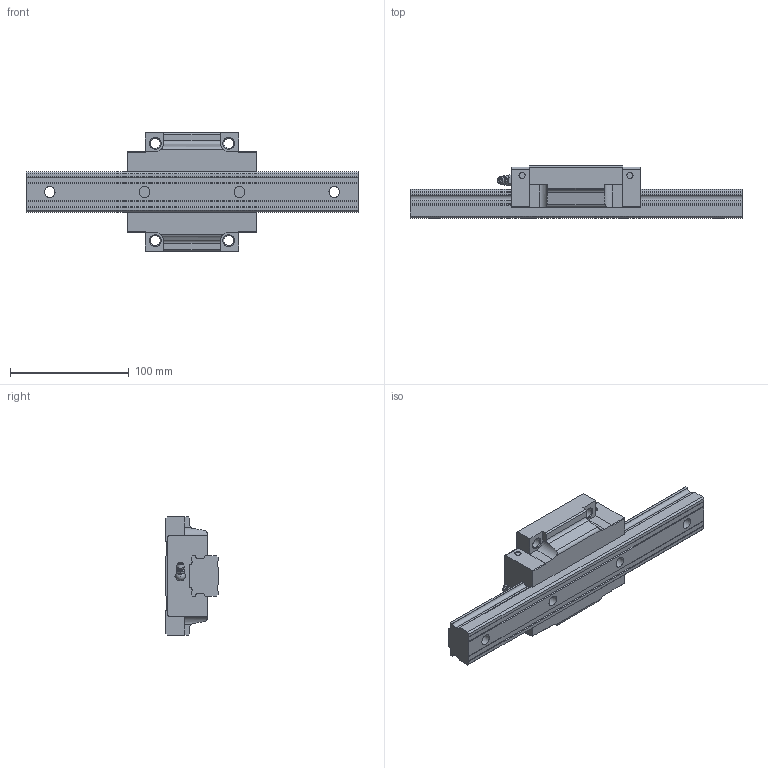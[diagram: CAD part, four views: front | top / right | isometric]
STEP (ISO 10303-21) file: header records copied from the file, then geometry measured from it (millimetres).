
FILE_DESCRIPTION(/* description */ ('STEP AP203'),/* implementation_level */ '2;1');
FILE_NAME(/* name */ 'SVR35C1SS-280L_G20_0_B-M6F_85-25_0_0_0_1',/* time_stamp */ '2024-05-17T07:22:56+02:00',/* author */ ('License CC BY-ND 4.0'),/* organization */ ('CADENAS'),/* preprocessor_version */ 'ST-DEVELOPER v19.3',/* originating_system */ 'PARTsolutions',/* authorisation */ ' ');
FILE_SCHEMA (('CONFIG_CONTROL_DESIGN'));
Length unit declared in the file: millimetre
Products named in the file (4): SVR35C1SS-280L_G20_0_B-M6F_85-25_0_0_0_1; SVR 35C28020 R Track; SVR 35C1SSB-M6F1 Slide; B-M6F_grease_nipple_joint1_SVR
Assembly tree (3 placements, depth 2):
  SVR35C1SS-280L_G20_0_B-M6F_85-25_0_0_0_1
    SVR 35C28020 R Track
    SVR 35C1SSB-M6F1 Slide
    B-M6F_grease_nipple_joint1_SVR
Bounding box: 280 x 44 x 100 mm (x, y, z)
Volume: 460603.9 mm3; surface area: 75745.6 mm2
Topology: 3 solids, 3 shells, 206 faces, 552 edges, 361 vertices
Faces by surface type: plane 116, cylinder 64, cone 21, sphere 3, torus 2
Full cylindrical faces by diameter (mm): 4.917 x2, 5.2 x4, 6 x1, 8 x1, 8.5 x4, 9 x4, 14 x4
Entity records: 6349 total; most frequent: CARTESIAN_POINT 1201, DIRECTION 1048, ORIENTED_EDGE 1004, EDGE_CURVE 502, AXIS2_PLACEMENT_3D 368, VERTEX_POINT 353, LINE 312, VECTOR 312
